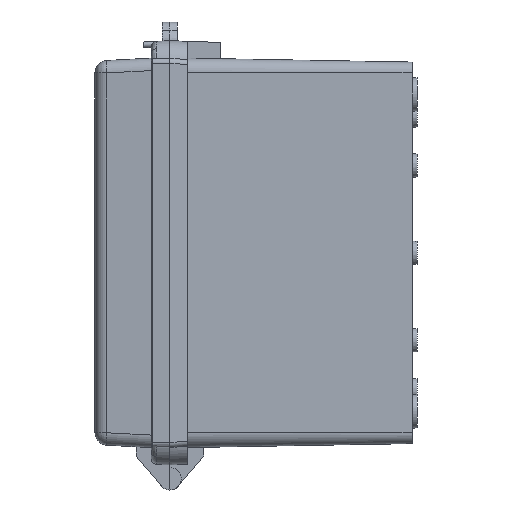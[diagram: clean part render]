
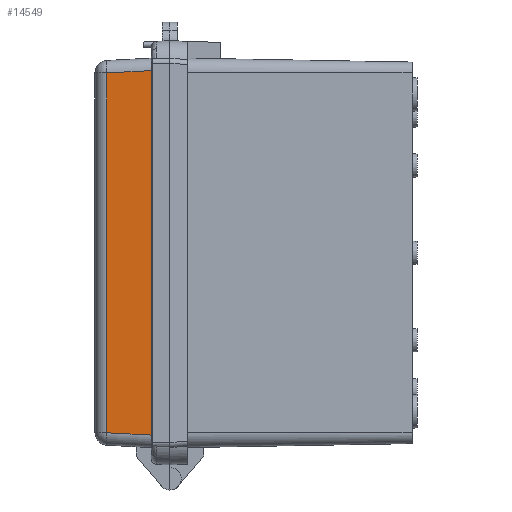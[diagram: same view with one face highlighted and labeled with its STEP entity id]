
A CAD part, left-side view. The second image highlights one B-rep face of the part: STEP entity #14549.
In plain terms, the highlighted planar face has unit normal (-0.999, 0.052, 0).
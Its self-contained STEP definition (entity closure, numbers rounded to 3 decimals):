
#59 = DIRECTION ( 'NONE',  ( -0.052, -0.997, -0.052 ) ) ;
#641 = VERTEX_POINT ( 'NONE', #6708 ) ;
#2061 = CARTESIAN_POINT ( 'NONE',  ( -103., 7.5, 78. ) ) ;
#2742 = EDGE_CURVE ( 'NONE', #21543, #21272, #16027, .T. ) ;
#2951 = LINE ( 'NONE', #23006, #7141 ) ;
#3026 = CARTESIAN_POINT ( 'NONE',  ( -103., 7.5, 73.007 ) ) ;
#3196 = ORIENTED_EDGE ( 'NONE', *, *, #2742, .T. ) ;
#4085 = FACE_OUTER_BOUND ( 'NONE', #9891, .T. ) ;
#4801 = EDGE_CURVE ( 'NONE', #21272, #641, #14226, .T. ) ;
#5694 = CARTESIAN_POINT ( 'NONE',  ( -102.588, 15.371, -72.594 ) ) ;
#6708 = CARTESIAN_POINT ( 'NONE',  ( -102.069, 25.262, -72.076 ) ) ;
#7141 = VECTOR ( 'NONE', #18844, 1000. ) ;
#8092 = EDGE_CURVE ( 'NONE', #641, #19454, #20638, .T. ) ;
#8434 = ORIENTED_EDGE ( 'NONE', *, *, #4801, .T. ) ;
#9891 = EDGE_LOOP ( 'NONE', ( #3196, #8434, #23487, #18520 ) ) ;
#10201 = CARTESIAN_POINT ( 'NONE',  ( -102.069, 25.262, 78. ) ) ;
#12274 = CARTESIAN_POINT ( 'NONE',  ( -103.014, 7.24, 73.02 ) ) ;
#12289 = PLANE ( 'NONE',  #23740 ) ;
#14226 = LINE ( 'NONE', #10201, #26235 ) ;
#14549 = ADVANCED_FACE ( 'NONE', ( #4085 ), #12289, .T. ) ;
#15371 = VECTOR ( 'NONE', #24253, 1000. ) ;
#16027 = LINE ( 'NONE', #12274, #15371 ) ;
#16518 = DIRECTION ( 'NONE',  ( 0., 0., -1. ) ) ;
#18480 = DIRECTION ( 'NONE',  ( -0.052, -0.999, 0. ) ) ;
#18520 = ORIENTED_EDGE ( 'NONE', *, *, #23856, .F. ) ;
#18844 = DIRECTION ( 'NONE',  ( 0., 0., -1. ) ) ;
#19454 = VERTEX_POINT ( 'NONE', #22518 ) ;
#20046 = CARTESIAN_POINT ( 'NONE',  ( -102.069, 25.262, 72.076 ) ) ;
#20638 = LINE ( 'NONE', #5694, #21557 ) ;
#21272 = VERTEX_POINT ( 'NONE', #20046 ) ;
#21543 = VERTEX_POINT ( 'NONE', #3026 ) ;
#21557 = VECTOR ( 'NONE', #59, 1000. ) ;
#22518 = CARTESIAN_POINT ( 'NONE',  ( -103., 7.5, -73.007 ) ) ;
#22635 = DIRECTION ( 'NONE',  ( -0.999, 0.052, 0. ) ) ;
#23006 = CARTESIAN_POINT ( 'NONE',  ( -103., 7.5, 78. ) ) ;
#23487 = ORIENTED_EDGE ( 'NONE', *, *, #8092, .T. ) ;
#23740 = AXIS2_PLACEMENT_3D ( 'NONE', #2061, #22635, #18480 ) ;
#23856 = EDGE_CURVE ( 'NONE', #21543, #19454, #2951, .T. ) ;
#24253 = DIRECTION ( 'NONE',  ( 0.052, 0.997, -0.052 ) ) ;
#26235 = VECTOR ( 'NONE', #16518, 1000. ) ;
